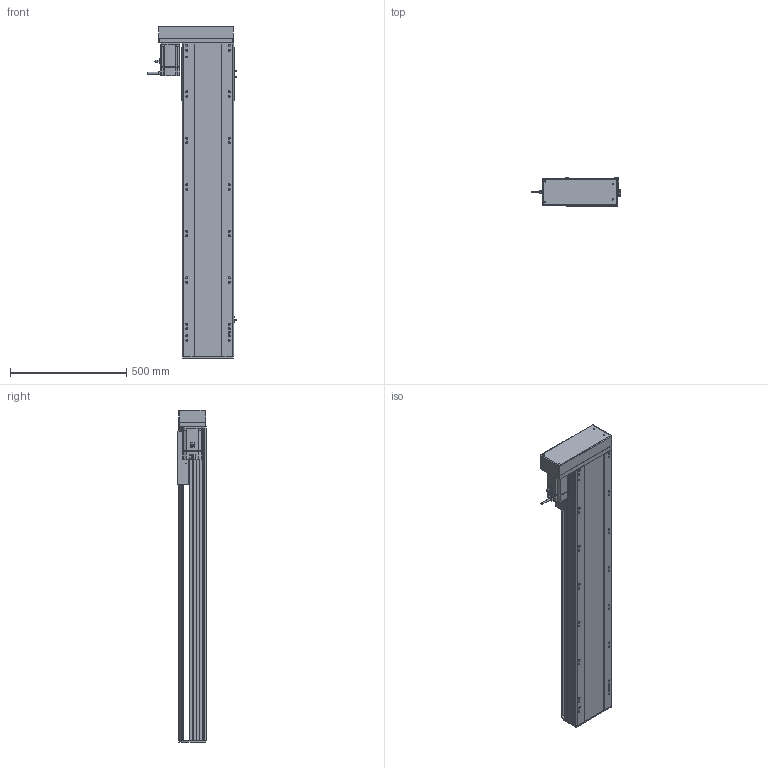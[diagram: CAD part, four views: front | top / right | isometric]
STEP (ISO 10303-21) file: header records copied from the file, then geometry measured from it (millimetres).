
FILE_DESCRIPTION (( 'STEP AP214' ), '1' );
FILE_NAME ('RTH22-XX-1050-R-M75-C4.STEP', '2025-10-25T03:13:09', ( 'Microsoft' ), ( 'Microsoft' ), 'SwSTEP 2.0', 'SolidWorks 2018', '' );
FILE_SCHEMA (( 'AUTOMOTIVE_DESIGN' ));
Length unit declared in the file: millimetre
Products named in the file (10): N_RTH22-L-004-SFS25賑釱^RTH22-XX-XX-R-M75-C4; N_RTH22-GY-013外置感应片^RTH22-XX-XX-R-M75-C4; N_RTH22-L-007奻裔^RTH22-XX-XX-R-M75-C4; N_RTH22-GY-001耜裔^RTH22-XX-XX-R-M75-C4; N_RTH22-R-008-P75萇儂啣^RTH22-XX-XX-R-M75-C4; N_RTH22-L-011菁釱^RTH22-XX-XX-R-M75-C4; N_RTH22-L-018裔赽^RTH22-XX-XX-R-M75-C4; N_750W萇儂^RTH22-XX-XX-R-M75-C4; N_OMRON EE-SX672 传感器^RTH22-XX-XX-R-M75-C4; RTH22-XX-1050-R-M75-C4
Assembly tree (11 placements, depth 2):
  RTH22-XX-1050-R-M75-C4
    N_RTH22-L-011菁釱^RTH22-XX-XX-R-M75-C4
    N_RTH22-GY-001耜裔^RTH22-XX-XX-R-M75-C4
    N_750W萇儂^RTH22-XX-XX-R-M75-C4
    N_RTH22-R-008-P75萇儂啣^RTH22-XX-XX-R-M75-C4
    N_RTH22-L-007奻裔^RTH22-XX-XX-R-M75-C4
    N_OMRON EE-SX672 传感器^RTH22-XX-XX-R-M75-C4  x3
    N_RTH22-GY-013外置感应片^RTH22-XX-XX-R-M75-C4
    N_RTH22-L-004-SFS25賑釱^RTH22-XX-XX-R-M75-C4
    N_RTH22-L-018裔赽^RTH22-XX-XX-R-M75-C4
Bounding box: 384.7 x 122 x 1429.7 mm (x, y, z)
Volume: 19504486.5 mm3; surface area: 2174354.8 mm2
Topology: 11 solids, 11 shells, 1610 faces, 4397 edges, 2833 vertices
Faces by surface type: plane 795, cylinder 474, bspline 279, cone 62
Entity records: 40625 total; most frequent: CARTESIAN_POINT 12350, ORIENTED_EDGE 5762, DIRECTION 5447, EDGE_CURVE 2881, VERTEX_POINT 1869, AXIS2_PLACEMENT_3D 1838, LINE 1771, VECTOR 1771
